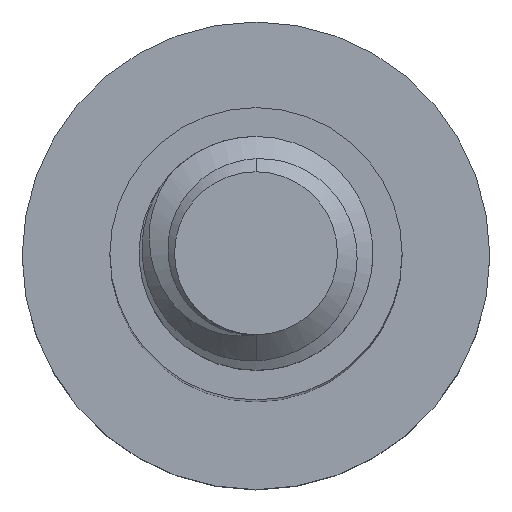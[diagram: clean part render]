
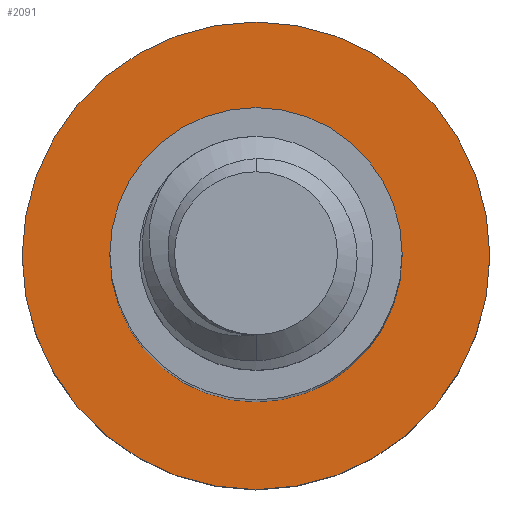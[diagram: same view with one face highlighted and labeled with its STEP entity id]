
A CAD part, top view. The second image highlights one B-rep face of the part: STEP entity #2091.
In plain terms, the highlighted planar face has unit normal (0, 0, 1).
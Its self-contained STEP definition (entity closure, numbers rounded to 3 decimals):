
#19 = EDGE_CURVE ( 'NONE', #841, #124, #923, .T. ) ;
#39 = CARTESIAN_POINT ( 'NONE',  ( 2.5, 0., -20. ) ) ;
#48 = CARTESIAN_POINT ( 'NONE',  ( 4., 0., -20. ) ) ;
#66 = CARTESIAN_POINT ( 'NONE',  ( -2.5, 0., -20. ) ) ;
#67 = CARTESIAN_POINT ( 'NONE',  ( 0., 0., -20. ) ) ;
#124 = VERTEX_POINT ( 'NONE', #1141 ) ;
#133 = DIRECTION ( 'NONE',  ( -1., 0., 0. ) ) ;
#262 = CARTESIAN_POINT ( 'NONE',  ( 0., 0., -20. ) ) ;
#354 = AXIS2_PLACEMENT_3D ( 'NONE', #262, #770, #438 ) ;
#413 = EDGE_CURVE ( 'NONE', #1878, #514, #1311, .T. ) ;
#438 = DIRECTION ( 'NONE',  ( -1., 0., 0. ) ) ;
#499 = EDGE_LOOP ( 'NONE', ( #2038, #1788 ) ) ;
#514 = VERTEX_POINT ( 'NONE', #39 ) ;
#568 = CIRCLE ( 'NONE', #1206, 4. ) ;
#624 = CARTESIAN_POINT ( 'NONE',  ( 0., 0., -20. ) ) ;
#636 = DIRECTION ( 'NONE',  ( 0., 0., -1. ) ) ;
#755 = DIRECTION ( 'NONE',  ( -1., 0., 0. ) ) ;
#770 = DIRECTION ( 'NONE',  ( 0., 0., -1. ) ) ;
#841 = VERTEX_POINT ( 'NONE', #48 ) ;
#923 = CIRCLE ( 'NONE', #2109, 4. ) ;
#1055 = ORIENTED_EDGE ( 'NONE', *, *, #1364, .F. ) ;
#1076 = EDGE_LOOP ( 'NONE', ( #2041, #1055 ) ) ;
#1141 = CARTESIAN_POINT ( 'NONE',  ( -4., 0., -20. ) ) ;
#1206 = AXIS2_PLACEMENT_3D ( 'NONE', #1818, #1357, #133 ) ;
#1311 = CIRCLE ( 'NONE', #354, 2.5 ) ;
#1341 = AXIS2_PLACEMENT_3D ( 'NONE', #1792, #1773, #755 ) ;
#1344 = PLANE ( 'NONE',  #1595 ) ;
#1357 = DIRECTION ( 'NONE',  ( 0., 0., -1. ) ) ;
#1364 = EDGE_CURVE ( 'NONE', #124, #841, #568, .T. ) ;
#1399 = DIRECTION ( 'NONE',  ( -1., 0., 0. ) ) ;
#1441 = DIRECTION ( 'NONE',  ( 0., 0., -1. ) ) ;
#1595 = AXIS2_PLACEMENT_3D ( 'NONE', #624, #636, #1989 ) ;
#1676 = FACE_BOUND ( 'NONE', #499, .T. ) ;
#1773 = DIRECTION ( 'NONE',  ( 0., 0., -1. ) ) ;
#1788 = ORIENTED_EDGE ( 'NONE', *, *, #2030, .T. ) ;
#1792 = CARTESIAN_POINT ( 'NONE',  ( 0., 0., -20. ) ) ;
#1818 = CARTESIAN_POINT ( 'NONE',  ( 0., 0., -20. ) ) ;
#1878 = VERTEX_POINT ( 'NONE', #66 ) ;
#1989 = DIRECTION ( 'NONE',  ( -1., 0., 0. ) ) ;
#2010 = FACE_OUTER_BOUND ( 'NONE', #1076, .T. ) ;
#2030 = EDGE_CURVE ( 'NONE', #514, #1878, #2042, .T. ) ;
#2038 = ORIENTED_EDGE ( 'NONE', *, *, #413, .T. ) ;
#2041 = ORIENTED_EDGE ( 'NONE', *, *, #19, .F. ) ;
#2042 = CIRCLE ( 'NONE', #1341, 2.5 ) ;
#2091 = ADVANCED_FACE ( 'NONE', ( #1676, #2010 ), #1344, .F. ) ;
#2109 = AXIS2_PLACEMENT_3D ( 'NONE', #67, #1441, #1399 ) ;
